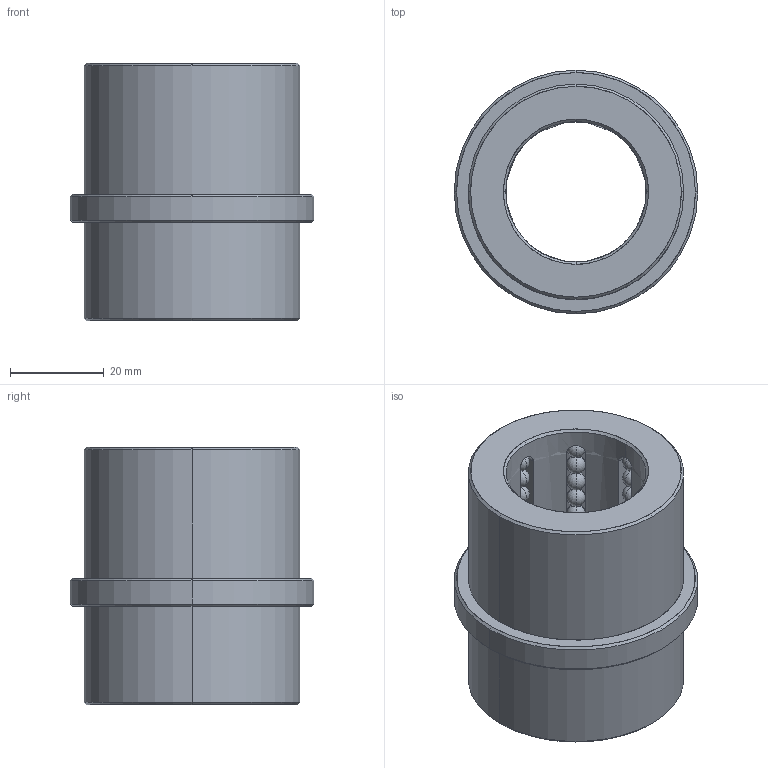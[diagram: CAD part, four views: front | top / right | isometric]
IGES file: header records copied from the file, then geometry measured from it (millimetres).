
Start section: START RECORD GO HERE.
Global section: file name: B8123055.igs; native system: DASSAULT SYSTEMES CATIA V5 R20 - www.3ds.com; preprocessor: CATIA Version 5 Release 20 ; author: Utente; organization: NB04-ASUS; date: 20200419.171344; units: millimetre
Bounding box: 52 x 52 x 55 mm (x, y, z)
Surface area: 23364.4 mm2 (no closed solid volume)
Topology: 0 solids, 0 shells, 428 faces, 1780 edges, 1076 vertices
Faces by surface type: revolution 400, plane 28
